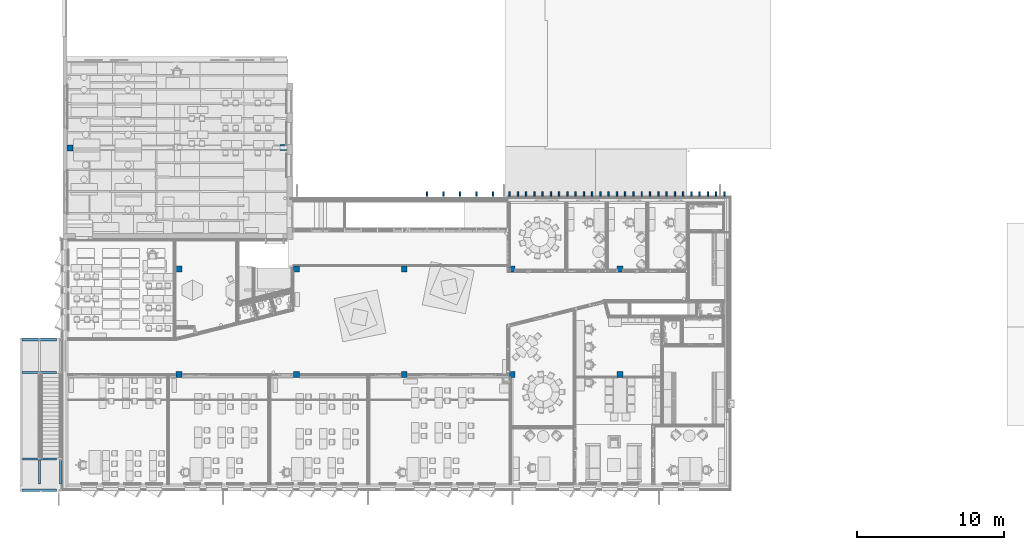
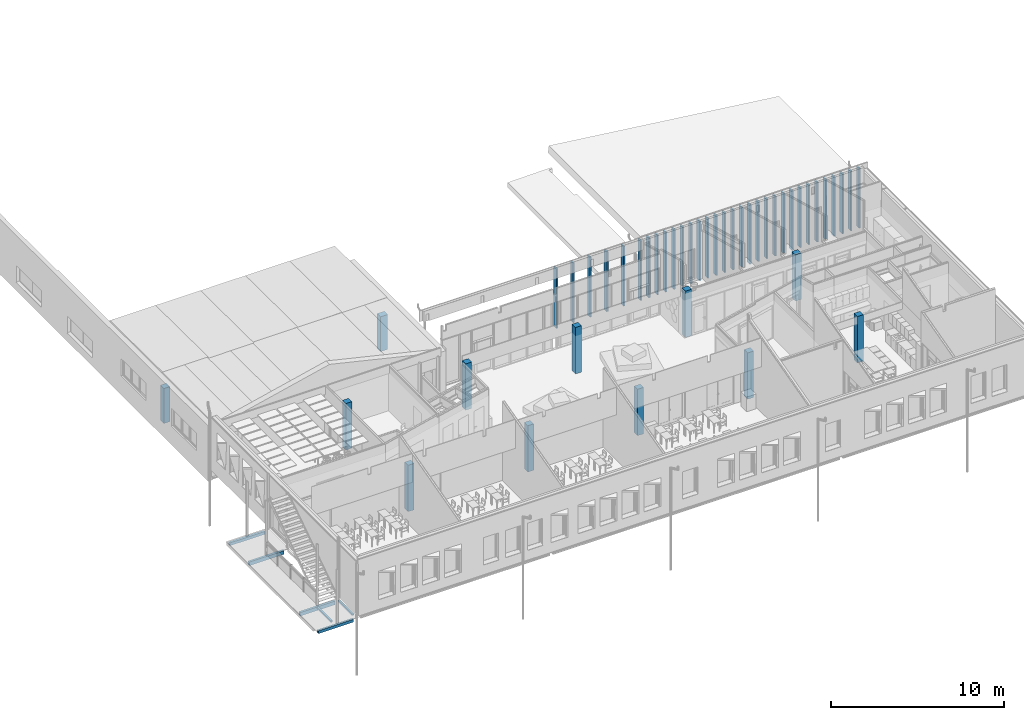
# One storey, part 1 of 153: 44 columns, 6 beams.
"""IFC2X3 building model written with IfcOpenShell, lengths in millimetres."""

from ifc_helpers import new_model, entity, si_unit, converted_unit, derived_unit, money_unit, direction, frame, origin_with_axes, place, context, subcontext, project, spatial, faceted_brep, source, transform, mapped, material, type_object, element, save


model = new_model("IFC2X3")

# Units and contexts
model_context = context("Model", 3, precision=0.01, world=origin_with_axes(), true_north=direction((0.0, 1.0)))
body_context = subcontext(model_context, "Body", "Model", "MODEL_VIEW")
ifc_project = project(units=[si_unit("LENGTHUNIT", "METRE", prefix="MILLI"), si_unit("AREAUNIT", "SQUARE_METRE"), si_unit("VOLUMEUNIT", "CUBIC_METRE"), converted_unit("PLANEANGLEUNIT", "DEGREE", entity("IfcPlaneAngleMeasure", 0.0174532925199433), si_unit("PLANEANGLEUNIT", "RADIAN"), dimensions=[0, 0, 0, 0, 0, 0, 0]), money_unit("EUR"), converted_unit("TIMEUNIT", "Year", entity("IfcTimeMeasure", 31557600.0), si_unit("TIMEUNIT", "SECOND"), dimensions=[0, 0, 1, 0, 0, 0, 0]), si_unit("MASSUNIT", "GRAM", prefix="KILO"), si_unit("THERMODYNAMICTEMPERATUREUNIT", "DEGREE_CELSIUS"), si_unit("LUMINOUSINTENSITYUNIT", "LUMEN"), si_unit("ENERGYUNIT", "JOULE", prefix="MEGA"), derived_unit("THERMALCONDUCTANCEUNIT", [(si_unit("POWERUNIT", "WATT"), 1), (si_unit("LENGTHUNIT", "METRE"), -1), (si_unit("THERMODYNAMICTEMPERATUREUNIT", "KELVIN"), -1)]), derived_unit("SPECIFICHEATCAPACITYUNIT", [(si_unit("ENERGYUNIT", "JOULE"), 1), (si_unit("MASSUNIT", "GRAM", prefix="KILO"), -1), (si_unit("THERMODYNAMICTEMPERATUREUNIT", "KELVIN"), -1)]), derived_unit("MASSDENSITYUNIT", [(si_unit("MASSUNIT", "GRAM", prefix="KILO"), 1), (si_unit("VOLUMEUNIT", "CUBIC_METRE"), -1)])], contexts=[model_context])

# Site, building, storey
site_placement = place(None, frame((0.0, 0.0, 8650.0), z_axis=(0.0, 0.0, 1.0), x_axis=(1.0, 0.0, 0.0)))
site = spatial("IfcSite", under=ifc_project, at=site_placement, Name="43301:001:0844", CompositionType="ELEMENT")
building_placement = place(site_placement, origin_with_axes())
building = spatial("IfcBuilding", under=site, at=building_placement, Name="Kuressaare Ametikooli tuulikute mehaanikute õppekorpus", CompositionType="ELEMENT")
storey_placement = place(building_placement, frame((0.0, 0.0, 4100.0), z_axis=(0.0, 0.0, 1.0), x_axis=(1.0, 0.0, 0.0)))
storey = spatial("IfcBuildingStorey", under=building, at=storey_placement, Name="2.korrus", CompositionType="ELEMENT", Elevation=4100.0)

# Columns
ifc_material_1 = material(Name="Puit - Liimpuit")
column_type_1 = type_object("IfcColumnType", Name="Puit - Liimpuit 400 x 400", PredefinedType="NOTDEFINED")
for number, where, z_axis, x_axis in (
    (1, (125918.0683571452, 23774.0689239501, 0.0), (0.0, 0.0, 1.0), (1.0, 0.0, 0.0)),
    (2, (95868.06842900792, 16574.046874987, 0.0), (0.0, 0.0, 1.0), (1.0, 0.0, 0.0)),
    (3, (103867.9521417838, 23774.0689239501, 0.0), (0.0, 0.0, 1.0), (1.0, 0.0, 0.0)),
    (4, (111217.9493746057, 23774.0689239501, 0.0), (0.0, 0.0, 1.0), (1.0, 0.0, 0.0)),
    (5, (118567.9466433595, 16574.04687498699, 0.0), (0.0, 0.0, 1.0), (1.0, 0.0, 0.0)),
    (6, (118567.946571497, 23774.0689239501, 0.0), (0.0, 0.0, 1.0), (1.0, 0.0, 0.0)),
    (7, (125918.0683571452, 16574.046874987, 0.0), (0.0, 0.0, 1.0), (1.0, 0.0, 0.0)),
    (8, (111217.9493746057, 16574.04687498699, 0.0), (0.0, 0.0, 1.0), (1.0, 0.0, 0.0)),
    (9, (103867.9521302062, 16574.046874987, 0.0), (0.0, 0.0, 1.0), (1.0, 0.0, 0.0)),
    (10, (95868.06835714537, 23774.0689239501, 0.0), (0.0, 0.0, 1.0), (1.0, 0.0, 0.0)),
):
    element("IfcColumn", number, at=place(storey_placement, frame(where, z_axis=z_axis, x_axis=x_axis)), inside=storey, type_object=column_type_1, material=ifc_material_1, context=body_context, shape_type="Brep", body=[
        faceted_brep([(-200.0000000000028, -199.9999999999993, 3279.999999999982), (-200.0000000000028, -199.9999999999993, 0.0), (200.0000000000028, -199.9999999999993, 0.0), (200.0000000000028, -199.9999999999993, 3279.999999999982), (-200.0000000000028, 199.9999999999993, 3279.999999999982), (-200.0000000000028, 199.9999999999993, 0.0), (200.0000000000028, 199.9999999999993, 0.0), (200.0000000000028, 199.9999999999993, 3279.999999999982)], [[[0, 1, 2, 3]], [[4, 5, 1, 0]], [[2, 1, 5, 6]], [[3, 2, 6, 7]], [[4, 0, 3, 7]], [[7, 6, 5, 4]]]),
    ])
ifc_material_2 = material(Name="GENEERILINE - KONSTRUKTRIOON")
column_type_2 = type_object("IfcColumnType", Name="GENEERILINE - KONSTRUKTRIOON 300 x 100", PredefinedType="NOTDEFINED")
column_1_placement = place(storey_placement, frame((133016.1026822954, 28888.99707554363, -515.0000247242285), z_axis=(0.0, 0.0, 1.0), x_axis=(0.0, -1.0, 0.0)))
element("IfcColumn", 11, at=column_1_placement, inside=storey, type_object=column_type_2, material=ifc_material_2, Name="Esif_varjestus_vertik", context=body_context, shape_type="Brep", body=[
    faceted_brep([(150.0000000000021, 50.00000000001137, 4221.826719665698), (150.0000000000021, 50.00000000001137, 0.0), (-149.9999999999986, 50.00000000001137, 0.0), (-149.9999999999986, 50.00000000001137, 4221.826719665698), (150.0000000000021, -49.99999999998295, 4221.826719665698), (150.0000000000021, -49.99999999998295, 0.0), (-149.9999999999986, -49.99999999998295, 0.0), (-149.9999999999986, -49.99999999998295, 4221.826719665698)], [[[0, 1, 2, 3]], [[4, 5, 1, 0]], [[2, 1, 5, 6]], [[3, 2, 6, 7]], [[4, 0, 3, 7]], [[7, 6, 5, 4]]]),
])
for number, where, z_axis, x_axis in (
    (12, (112767.1026822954, 28888.99707554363, -515.0000247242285), (0.0, 0.0, 1.0), (0.0, -1.0, 0.0)),
    (13, (113892.1026822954, 28888.99707554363, -515.0000247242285), (0.0, 0.0, 1.0), (0.0, -1.0, 0.0)),
    (14, (115017.1026822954, 28888.99707554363, -515.0000247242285), (0.0, 0.0, 1.0), (0.0, -1.0, 0.0)),
    (15, (116142.1026822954, 28888.99707554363, -515.0000247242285), (0.0, 0.0, 1.0), (0.0, -1.0, 0.0)),
    (16, (117267.1026822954, 28888.99707554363, -515.0000247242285), (0.0, 0.0, 1.0), (0.0, -1.0, 0.0)),
):
    element("IfcColumn", number, at=place(storey_placement, frame(where, z_axis=z_axis, x_axis=x_axis)), inside=storey, type_object=column_type_2, material=ifc_material_2, Name="Esif_varjestus_vertik", context=body_context, shape_type="Brep", body=[
        faceted_brep([(150.0000000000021, 49.99999999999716, 4221.826719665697), (150.0000000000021, 49.99999999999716, 0.0), (-149.9999999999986, 49.99999999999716, 0.0), (-149.9999999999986, 49.99999999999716, 4221.826719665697), (150.0000000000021, -49.99999999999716, 4221.826719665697), (150.0000000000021, -49.99999999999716, 0.0), (-149.9999999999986, -49.99999999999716, 0.0), (-149.9999999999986, -49.99999999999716, 4221.826719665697)], [[[0, 1, 2, 3]], [[4, 5, 1, 0]], [[2, 1, 5, 6]], [[3, 2, 6, 7]], [[4, 0, 3, 7]], [[7, 6, 5, 4]]]),
    ])
for number, where, z_axis, x_axis in (
    (17, (118392.1026822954, 28888.99707554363, -515.0000247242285), (0.0, 0.0, 1.0), (0.0, -1.0, 0.0)),
    (18, (119517.1026822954, 28888.99707554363, -515.0000247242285), (0.0, 0.0, 1.0), (0.0, -1.0, 0.0)),
    (19, (120642.1026822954, 28888.99707554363, -515.0000247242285), (0.0, 0.0, 1.0), (0.0, -1.0, 0.0)),
    (20, (122892.1026822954, 28888.99707554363, -515.0000247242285), (0.0, 0.0, 1.0), (0.0, -1.0, 0.0)),
    (21, (124017.1026822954, 28888.99707554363, -515.0000247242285), (0.0, 0.0, 1.0), (0.0, -1.0, 0.0)),
    (22, (125142.1026822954, 28888.99707554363, -515.0000247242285), (0.0, 0.0, 1.0), (0.0, -1.0, 0.0)),
    (23, (126267.1026822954, 28888.99707554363, -515.0000247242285), (0.0, 0.0, 1.0), (0.0, -1.0, 0.0)),
    (24, (121767.1026822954, 28888.99707554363, -515.0000247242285), (0.0, 0.0, 1.0), (0.0, -1.0, 0.0)),
    (25, (127392.1026822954, 28888.99707554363, -515.0000247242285), (0.0, 0.0, 1.0), (0.0, -1.0, 0.0)),
):
    element("IfcColumn", number, at=place(storey_placement, frame(where, z_axis=z_axis, x_axis=x_axis)), inside=storey, type_object=column_type_2, material=ifc_material_2, Name="Esif_varjestus_vertik", context=body_context, shape_type="Brep", body=[
        faceted_brep([(150.0000000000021, 49.99999999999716, 4221.826719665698), (150.0000000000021, 49.99999999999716, 0.0), (-149.9999999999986, 49.99999999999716, 0.0), (-149.9999999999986, 49.99999999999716, 4221.826719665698), (150.0000000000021, -49.99999999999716, 4221.826719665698), (150.0000000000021, -49.99999999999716, 0.0), (-149.9999999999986, -49.99999999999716, 0.0), (-149.9999999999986, -49.99999999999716, 4221.826719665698)], [[[0, 1, 2, 3]], [[4, 5, 1, 0]], [[2, 1, 5, 6]], [[3, 2, 6, 7]], [[4, 0, 3, 7]], [[7, 6, 5, 4]]]),
    ])
for number, where, z_axis, x_axis in (
    (26, (128517.1026822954, 28888.99707554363, -515.0000247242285), (0.0, 0.0, 1.0), (0.0, -1.0, 0.0)),
    (27, (129642.1026822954, 28888.99707554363, -515.0000247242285), (0.0, 0.0, 1.0), (0.0, -1.0, 0.0)),
    (28, (131892.1026822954, 28888.99707554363, -515.0000247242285), (0.0, 0.0, 1.0), (0.0, -1.0, 0.0)),
    (29, (130767.1026822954, 28888.99707554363, -515.0000247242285), (0.0, 0.0, 1.0), (0.0, -1.0, 0.0)),
    (30, (132454.1026822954, 28888.99707554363, -515.0000247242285), (0.0, 0.0, 1.0), (0.0, -1.0, 0.0)),
):
    element("IfcColumn", number, at=place(storey_placement, frame(where, z_axis=z_axis, x_axis=x_axis)), inside=storey, type_object=column_type_2, material=ifc_material_2, Name="Esif_varjestus_vertik", context=body_context, shape_type="Brep", body=[
        faceted_brep([(150.0000000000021, 50.00000000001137, 4221.826719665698), (150.0000000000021, 50.00000000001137, 0.0), (-149.9999999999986, 50.00000000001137, 0.0), (-149.9999999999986, 50.00000000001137, 4221.826719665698), (150.0000000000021, -49.99999999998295, 4221.826719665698), (150.0000000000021, -49.99999999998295, 0.0), (-149.9999999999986, -49.99999999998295, 0.0), (-149.9999999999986, -49.99999999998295, 4221.826719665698)], [[[0, 1, 2, 3]], [[4, 5, 1, 0]], [[2, 1, 5, 6]], [[3, 2, 6, 7]], [[4, 0, 3, 7]], [[7, 6, 5, 4]]]),
    ])
for number, where, z_axis, x_axis in (
    (31, (118954.1026822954, 28888.99707554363, -515.0000247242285), (0.0, 0.0, 1.0), (0.0, -1.0, 0.0)),
    (32, (120079.1026822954, 28888.99707554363, -515.0000247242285), (0.0, 0.0, 1.0), (0.0, -1.0, 0.0)),
    (33, (121204.1026822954, 28888.99707554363, -515.0000247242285), (0.0, 0.0, 1.0), (0.0, -1.0, 0.0)),
    (34, (122329.1026822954, 28888.99707554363, -515.0000247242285), (0.0, 0.0, 1.0), (0.0, -1.0, 0.0)),
    (35, (123454.1026822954, 28888.99707554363, -515.0000247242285), (0.0, 0.0, 1.0), (0.0, -1.0, 0.0)),
    (36, (124579.1026822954, 28888.99707554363, -515.0000247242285), (0.0, 0.0, 1.0), (0.0, -1.0, 0.0)),
    (37, (125704.1026822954, 28888.99707554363, -515.0000247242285), (0.0, 0.0, 1.0), (0.0, -1.0, 0.0)),
    (38, (127954.1026822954, 28888.99707554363, -515.0000247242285), (0.0, 0.0, 1.0), (0.0, -1.0, 0.0)),
    (39, (126829.1026822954, 28888.99707554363, -515.0000247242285), (0.0, 0.0, 1.0), (0.0, -1.0, 0.0)),
):
    element("IfcColumn", number, at=place(storey_placement, frame(where, z_axis=z_axis, x_axis=x_axis)), inside=storey, type_object=column_type_2, material=ifc_material_2, Name="Esif_varjestus_vertik", context=body_context, shape_type="Brep", body=[
        faceted_brep([(150.0000000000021, 49.99999999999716, 4221.826719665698), (150.0000000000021, 49.99999999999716, 0.0), (-149.9999999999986, 49.99999999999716, 0.0), (-149.9999999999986, 49.99999999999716, 4221.826719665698), (150.0000000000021, -49.99999999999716, 4221.826719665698), (150.0000000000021, -49.99999999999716, 0.0), (-149.9999999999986, -49.99999999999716, 0.0), (-149.9999999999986, -49.99999999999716, 4221.826719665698)], [[[0, 1, 2, 3]], [[4, 5, 1, 0]], [[2, 1, 5, 6]], [[3, 2, 6, 7]], [[4, 0, 3, 7]], [[7, 6, 5, 4]]]),
    ])
for number, where, z_axis, x_axis in (
    (40, (129079.1026822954, 28888.99707554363, -515.0000247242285), (0.0, 0.0, 1.0), (0.0, -1.0, 0.0)),
    (41, (130204.1026822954, 28888.99707554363, -515.0000247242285), (0.0, 0.0, 1.0), (0.0, -1.0, 0.0)),
    (42, (131329.1026822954, 28888.99707554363, -515.0000247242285), (0.0, 0.0, 1.0), (0.0, -1.0, 0.0)),
):
    element("IfcColumn", number, at=place(storey_placement, frame(where, z_axis=z_axis, x_axis=x_axis)), inside=storey, type_object=column_type_2, material=ifc_material_2, Name="Esif_varjestus_vertik", context=body_context, shape_type="Brep", body=[
        faceted_brep([(150.0000000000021, 50.00000000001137, 4221.826719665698), (150.0000000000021, 50.00000000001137, 0.0), (-149.9999999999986, 50.00000000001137, 0.0), (-149.9999999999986, 50.00000000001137, 4221.826719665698), (150.0000000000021, -49.99999999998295, 4221.826719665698), (150.0000000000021, -49.99999999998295, 0.0), (-149.9999999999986, -49.99999999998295, 0.0), (-149.9999999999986, -49.99999999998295, 4221.826719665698)], [[[0, 1, 2, 3]], [[4, 5, 1, 0]], [[2, 1, 5, 6]], [[3, 2, 6, 7]], [[4, 0, 3, 7]], [[7, 6, 5, 4]]]),
    ])
column_type_3 = type_object("IfcColumnType", Name="GENEERILINE - KONSTRUKTRIOON 480 x 400", PredefinedType="NOTDEFINED")
column_2_placement = place(storey_placement, frame((102987.5122069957, 32039.04844125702, -539.9999999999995), z_axis=(0.0, 0.0, 1.0), x_axis=(1.0, 0.0, 0.0)))
element("IfcColumn", 43, at=column_2_placement, inside=storey, type_object=column_type_3, material=ifc_material_2, context=body_context, shape_type="Brep", body=[
    faceted_brep([(-240.0000000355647, -200.0000000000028, 2460.0), (-240.0000000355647, -200.0000000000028, 0.0), (240.0000000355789, -200.0000000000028, 0.0), (240.0000000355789, -200.0000000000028, 2460.0), (-240.0000000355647, 199.9999999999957, 2460.0), (-240.0000000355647, 199.9999999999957, 0.0), (240.0000000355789, 199.9999999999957, 0.0), (240.0000000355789, 199.9999999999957, 2460.0)], [[[0, 1, 2, 3]], [[4, 5, 1, 0]], [[2, 1, 5, 6]], [[3, 2, 6, 7]], [[4, 0, 3, 7]], [[7, 6, 5, 4]]]),
])
column_type_4 = type_object("IfcColumnType", Name="GENEERILINE - KONSTRUKTRIOON 390 x 400", PredefinedType="NOTDEFINED")
column_3_placement = place(storey_placement, frame((88453.75644692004, 32023.74467108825, -539.9999999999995), z_axis=(0.0, 0.0, 1.0), x_axis=(1.0, 0.0, 0.0)))
element("IfcColumn", 44, at=column_3_placement, inside=storey, type_object=column_type_4, material=ifc_material_2, context=body_context, shape_type="Brep", body=[
    faceted_brep([(-195.000000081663, -200.0000000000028, 2480.0), (-195.000000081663, -200.0000000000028, 0.0), (195.0000000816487, -200.0000000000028, 0.0), (195.0000000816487, -200.0000000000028, 2480.0), (-195.000000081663, 199.9999999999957, 2480.0), (-195.000000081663, 199.9999999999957, 0.0), (195.0000000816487, 199.9999999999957, 0.0), (195.0000000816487, 199.9999999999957, 2480.0)], [[[0, 1, 2, 3]], [[4, 5, 1, 0]], [[2, 1, 5, 6]], [[3, 2, 6, 7]], [[4, 0, 3, 7]], [[7, 6, 5, 4]]]),
])

# Beams
ifc_material_3 = material(Name="STEEL/S355")
beam_type = type_object("IfcBeamType", Name="IFC Footing Extruded", PredefinedType="NOTDEFINED")
shared_shape_1 = source(origin_with_axes(), body_context, "Body", "Brep", [
    faceted_brep([(2335.0, 75.0, -125.0), (2335.0, -75.0, -125.0), (0.0, -75.00000000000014, -124.9999999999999), (0.0, 74.99999999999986, -124.9999999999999), (2335.0, 75.0, 125.0), (2335.0, -75.0, 125.0), (2335.0, 68.99999999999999, -119.0), (2335.0, -68.99999999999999, -119.0), (2335.0, -68.99999999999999, 119.0), (2335.0, 68.99999999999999, 119.0), (0.0, -75.00000000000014, 125.0000000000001), (0.0, 74.99999999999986, 125.0000000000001), (0.0, 68.99999999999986, -118.9999999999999), (0.0, 68.99999999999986, 119.0000000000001), (0.0, -69.00000000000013, 119.0000000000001), (0.0, -69.00000000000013, -118.9999999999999)], [[[0, 1, 2, 3]], [[0, 4, 5, 1], [6, 7, 8, 9]], [[1, 5, 10, 2]], [[3, 2, 10, 11], [12, 13, 14, 15]], [[4, 0, 3, 11]], [[5, 4, 11, 10]], [[7, 6, 12, 15]], [[8, 7, 15, 14]], [[9, 8, 14, 13]], [[6, 9, 13, 12]]]),
])
for number, where, z_axis, x_axis in (
    (45, (87536.28788054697, 10823.83806945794, -184.9999999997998), (0.0, 0.0, 1.0), (-1.0, 0.0, 0.0)),
    (46, (87531.22662386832, 16713.83806945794, -184.9999999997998), (0.0, 0.0, 1.0), (-1.0, 0.0, 0.0)),
):
    element("IfcBeam", number, at=place(storey_placement, frame(where, z_axis=z_axis, x_axis=x_axis)), inside=storey, type_object=beam_type, material=ifc_material_3, Name="RAAM", context=body_context, shape_type="MappedRepresentation", body=[
        mapped(shared_shape_1, transform((0.0, 0.0, 0.0))),
    ])
shared_shape_2 = source(origin_with_axes(), body_context, "Body", "Brep", [
    faceted_brep([(1615.00000000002, 60.0, -60.0), (1615.00000000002, -60.0, -60.0), (0.0, -60.00000000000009, -59.9999999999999), (0.0, 59.9999999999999, -59.9999999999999), (1615.00000000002, 60.0, 60.0), (1615.00000000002, -60.0, 60.0), (1615.00000000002, 55.0, -55.0), (1615.00000000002, -55.0, -55.0), (1615.00000000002, -55.0, 55.0), (1615.00000000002, 55.0, 55.0), (0.0, -60.00000000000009, 60.00000000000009), (0.0, 59.9999999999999, 60.00000000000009), (0.0, 54.9999999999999, -54.9999999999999), (0.0, 54.9999999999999, 55.0000000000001), (0.0, -55.0000000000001, 55.0000000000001), (0.0, -55.0000000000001, -54.9999999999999)], [[[0, 1, 2, 3]], [[0, 4, 5, 1], [6, 7, 8, 9]], [[1, 5, 10, 2]], [[3, 2, 10, 11], [12, 13, 14, 15]], [[4, 0, 3, 11]], [[5, 4, 11, 10]], [[7, 6, 12, 15]], [[8, 7, 15, 14]], [[9, 8, 14, 13]], [[6, 9, 13, 12]]]),
])
for number, where, z_axis, x_axis in (
    (47, (87796.2291894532, 10748.83806945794, -119.9999999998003), (0.0, 0.0, 1.0), (0.0, -1.0, 0.0)),
    (48, (86381.22844693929, 10748.83806945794, -119.9999999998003), (0.0, 0.0, 1.0), (0.0, -1.0, 0.0)),
):
    element("IfcBeam", number, at=place(storey_placement, frame(where, z_axis=z_axis, x_axis=x_axis)), inside=storey, type_object=beam_type, material=ifc_material_3, Name="RAAM", context=body_context, shape_type="MappedRepresentation", body=[
        mapped(shared_shape_2, transform((0.0, 0.0, 0.0))),
    ])
shared_shape_3 = source(origin_with_axes(), body_context, "Body", "Brep", [
    faceted_brep([(2335.0, 75.0, -100.0), (2335.0, -75.0, -100.0), (0.0, -75.00000000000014, -99.99999999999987), (0.0, 74.99999999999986, -99.99999999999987), (2335.0, 75.0, 100.0), (2335.0, -75.0, 100.0), (2335.0, 68.99999999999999, -94.0), (2335.0, -68.99999999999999, -94.0), (2335.0, -68.99999999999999, 94.0), (2335.0, 68.99999999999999, 94.0), (0.0, -75.00000000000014, 100.0000000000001), (0.0, 74.99999999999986, 100.0000000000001), (0.0, 68.99999999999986, -93.99999999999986), (0.0, 68.99999999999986, 94.00000000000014), (0.0, -69.00000000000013, 94.00000000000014), (0.0, -69.00000000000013, -93.99999999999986)], [[[0, 1, 2, 3]], [[0, 4, 5, 1], [6, 7, 8, 9]], [[1, 5, 10, 2]], [[3, 2, 10, 11], [12, 13, 14, 15]], [[4, 0, 3, 11]], [[5, 4, 11, 10]], [[7, 6, 12, 15]], [[8, 7, 15, 14]], [[9, 8, 14, 13]], [[6, 9, 13, 12]]]),
])
for number, where, z_axis, x_axis in (
    (49, (87531.22662386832, 8698.838538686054, -159.9999999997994), (0.0, 0.0, 1.0), (-1.0, 0.0, 0.0)),
    (50, (87531.22662386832, 18953.07806945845, -160.0000000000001), (0.0, 0.0, 1.0), (-1.0, 0.0, 0.0)),
):
    element("IfcBeam", number, at=place(storey_placement, frame(where, z_axis=z_axis, x_axis=x_axis)), inside=storey, type_object=beam_type, material=ifc_material_3, Name="RAAM", context=body_context, shape_type="MappedRepresentation", body=[
        mapped(shared_shape_3, transform((0.0, 0.0, 0.0))),
    ])

save(model, "model.ifc")
